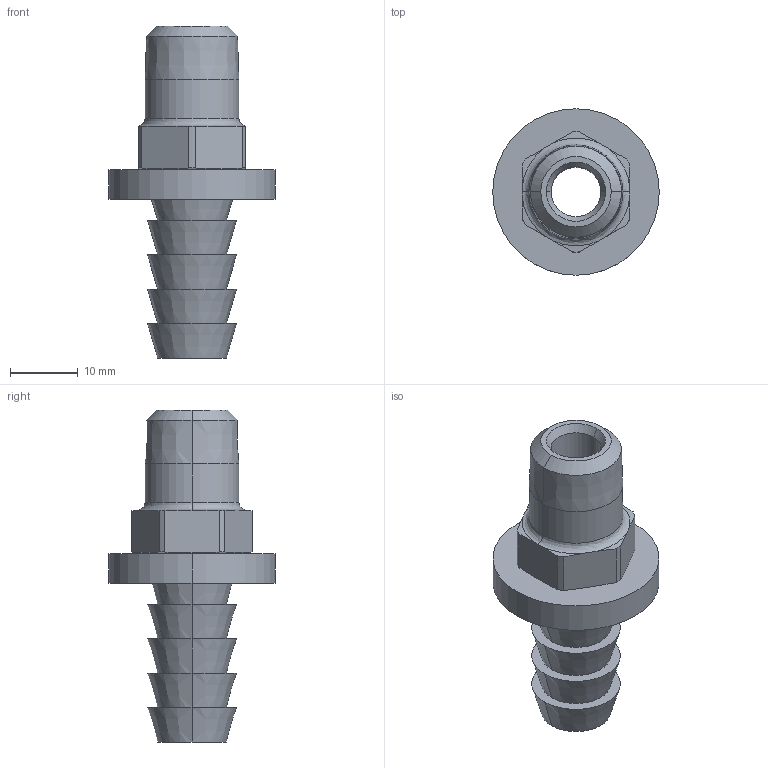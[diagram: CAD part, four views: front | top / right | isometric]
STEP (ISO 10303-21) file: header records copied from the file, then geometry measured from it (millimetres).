
FILE_DESCRIPTION (( 'STEP AP203' ), '1' );
FILE_NAME ('MB50-4-PL.step', '2020-08-19T07:16:29', ( 'Microsoft Corporation' ), ( 'MS' ), 'SwSTEP 2.0', 'SolidWorks 2018', '' );
FILE_SCHEMA (( 'CONFIG_CONTROL_DESIGN' ));
Length unit declared in the file: inch
Products named in the file (1): MB50-4-PL
Bounding box: 24.6 x 24.6 x 49.07 mm (x, y, z)
Volume: 5189.8 mm3; surface area: 4743.1 mm2
Topology: 1 solids, 1 shells, 59 faces, 138 edges, 88 vertices
Faces by surface type: cone 24, cylinder 16, plane 15, bspline 4
Entity records: 1865 total; most frequent: CARTESIAN_POINT 434, DIRECTION 292, ORIENTED_EDGE 276, EDGE_CURVE 138, AXIS2_PLACEMENT_3D 126, VERTEX_POINT 88, CIRCLE 70, EDGE_LOOP 68
